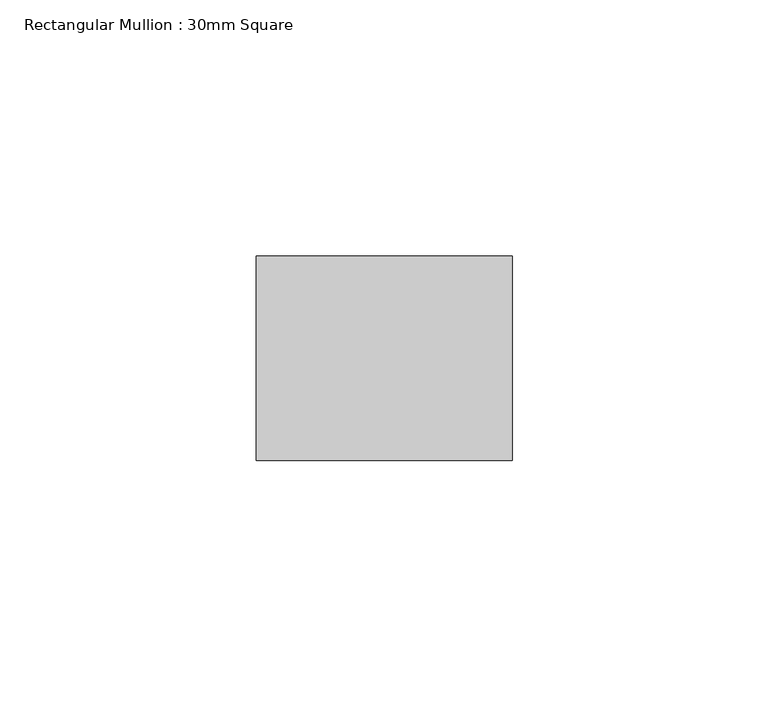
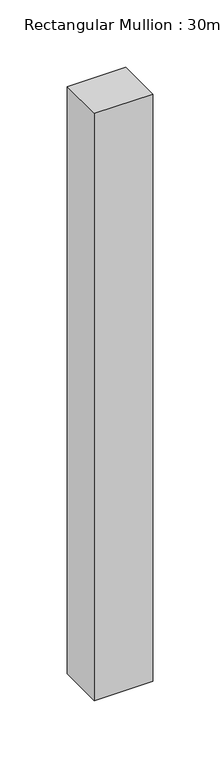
"""IFC4 building model written with IfcOpenShell, lengths in millimetres: member geometry, Rectangular Mullion : 30mm Square."""

from ifc_helpers import new_model, si_unit, frame, origin, place, context, project, spatial, polyline, outline, extrude, source, transform, mapped, element, save


def rectangular_mullion_30mm_square_133ca7d9(model_context):
    return source(origin(), model_context, "Body", "SweptSolid", [
        extrude(outline(polyline([(25.0, 20.0), (25.0, -20.0), (-25.0, -20.0), (-25.0, 20.0), (25.0, 20.0)])), frame((0.0, 0.0, -532.1900063), z_axis=(0.0, 0.0, 1.0), x_axis=(1.0, 0.0, 0.0)), (0.0, 0.0, 1.0), 532.1900063),
    ])


if __name__ == "__main__":
    model = new_model("IFC4")
    model_context = context("Model", 3, world=origin())
    ifc_project = project(units=[si_unit("LENGTHUNIT", "METRE", prefix="MILLI")], contexts=[model_context])
    site = spatial("IfcSite", under=ifc_project)
    building = spatial("IfcBuilding", under=site)
    placement = place(None, origin())
    rectangular_mullion_30mm_square_shape = rectangular_mullion_30mm_square_133ca7d9(model_context)
    element("IfcMember", 1, ObjectType="Rectangular Mullion : 30mm Square", at=placement, inside=building, context=model_context, shape_type="MappedRepresentation", body=[
        mapped(rectangular_mullion_30mm_square_shape, transform((0.0, 0.0, 0.0), x_axis=(1.0, 0.0, 0.0), y_axis=(0.0, 1.0, 0.0), z_axis=(0.0, 0.0, 1.0))),
    ])
    save(model, "model.ifc")
